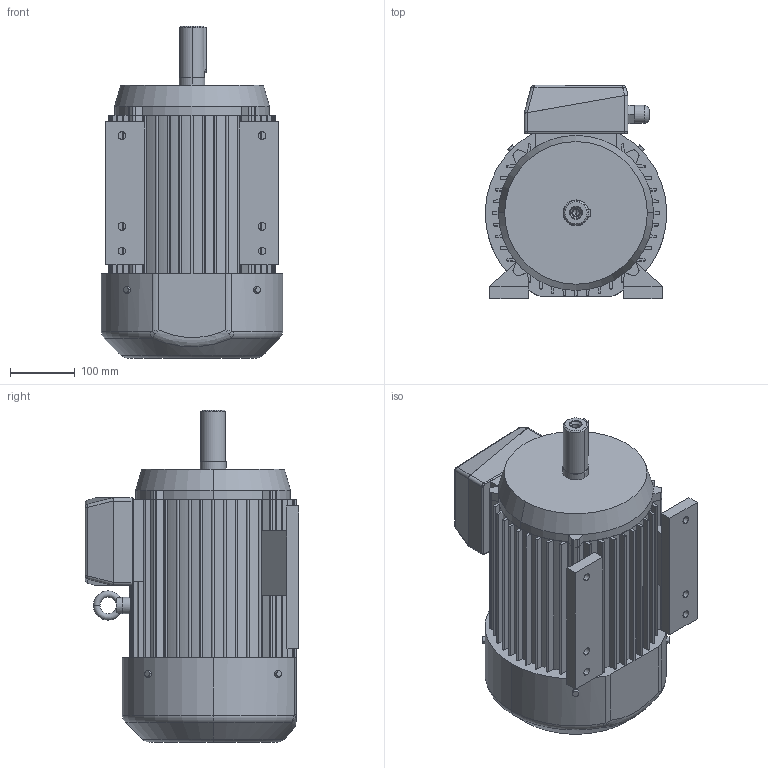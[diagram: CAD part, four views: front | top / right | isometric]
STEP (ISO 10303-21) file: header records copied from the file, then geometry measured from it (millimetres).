
FILE_DESCRIPTION (( 'STEP AP203' ), '1' );
FILE_NAME ('3SIE132S.STEP', '2014-10-01T06:07:26', ( '' ), ( '' ), 'SwSTEP 2.0', 'SolidWorks 2003064', '' );
FILE_SCHEMA (( 'CONFIG_CONTROL_DESIGN' ));
Length unit declared in the file: millimetre
Products named in the file (1): 3SIE132S
Bounding box: 280 x 329 x 512 mm (x, y, z)
Volume: 23580041.1 mm3; surface area: 984643.5 mm2
Topology: 17 solids, 17 shells, 410 faces, 1063 edges, 680 vertices
Faces by surface type: plane 189, cylinder 182, torus 16, cone 14, bspline 5, sphere 4
Entity records: 16293 total; most frequent: CARTESIAN_POINT 5995, DIRECTION 2214, ORIENTED_EDGE 2110, EDGE_CURVE 1055, AXIS2_PLACEMENT_3D 798, VERTEX_POINT 680, LINE 618, VECTOR 618
